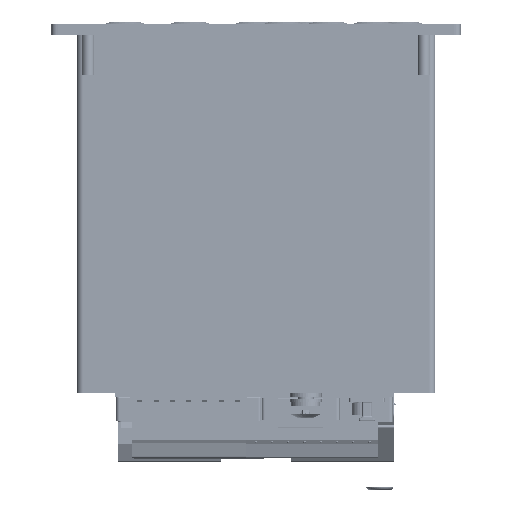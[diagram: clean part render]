
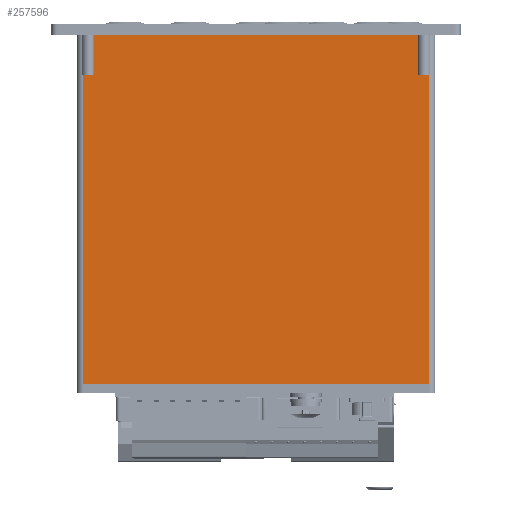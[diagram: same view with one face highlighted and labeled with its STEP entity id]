
A CAD part, left-side view. The second image highlights one B-rep face of the part: STEP entity #257596.
In plain terms, the highlighted planar face has unit normal (-1, 0, 0).
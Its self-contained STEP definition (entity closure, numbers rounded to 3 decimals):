
#11814=PLANE('',#276493);
#37173=FACE_OUTER_BOUND('',#51152,.T.);
#51152=EDGE_LOOP('',(#227946,#227947,#227948,#227949));
#82858=LINE('',#457134,#109025);
#82859=LINE('',#457137,#109026);
#82860=LINE('',#457139,#109027);
#82861=LINE('',#457140,#109028);
#109025=VECTOR('',#333192,10.);
#109026=VECTOR('',#333195,10.);
#109027=VECTOR('',#333196,10.);
#109028=VECTOR('',#333197,10.);
#132387=VERTEX_POINT('',#457130);
#132388=VERTEX_POINT('',#457132);
#132389=VERTEX_POINT('',#457136);
#132390=VERTEX_POINT('',#457138);
#165127=EDGE_CURVE('',#132387,#132388,#82858,.T.);
#165128=EDGE_CURVE('',#132389,#132387,#82859,.T.);
#165129=EDGE_CURVE('',#132390,#132388,#82860,.T.);
#165130=EDGE_CURVE('',#132389,#132390,#82861,.T.);
#227946=ORIENTED_EDGE('',*,*,#165128,.T.);
#227947=ORIENTED_EDGE('',*,*,#165127,.T.);
#227948=ORIENTED_EDGE('',*,*,#165129,.F.);
#227949=ORIENTED_EDGE('',*,*,#165130,.F.);
#257596=ADVANCED_FACE('',(#37173),#11814,.T.);
#276493=AXIS2_PLACEMENT_3D('',#457135,#333193,#333194);
#333192=DIRECTION('',(0.,0.,1.));
#333193=DIRECTION('center_axis',(-1.,0.,
0.));
#333194=DIRECTION('ref_axis',(0.,-1.,0.));
#333195=DIRECTION('',(0.,-1.,0.));
#333196=DIRECTION('',(0.,-1.,0.));
#333197=DIRECTION('',(0.,0.,1.));
#457130=CARTESIAN_POINT('',(-89.5,-54.,-89.565));
#457132=CARTESIAN_POINT('',(-89.5,-54.,19.435));
#457134=CARTESIAN_POINT('',(-89.5,-54.,-89.565));
#457135=CARTESIAN_POINT('Origin',(-89.5,54.,-89.565));
#457136=CARTESIAN_POINT('',(-89.5,54.,-89.565));
#457137=CARTESIAN_POINT('',(-89.5,-56.,-89.565));
#457138=CARTESIAN_POINT('',(-89.5,54.,19.435));
#457139=CARTESIAN_POINT('',(-89.5,27.,19.435));
#457140=CARTESIAN_POINT('',(-89.5,54.,-89.565));
